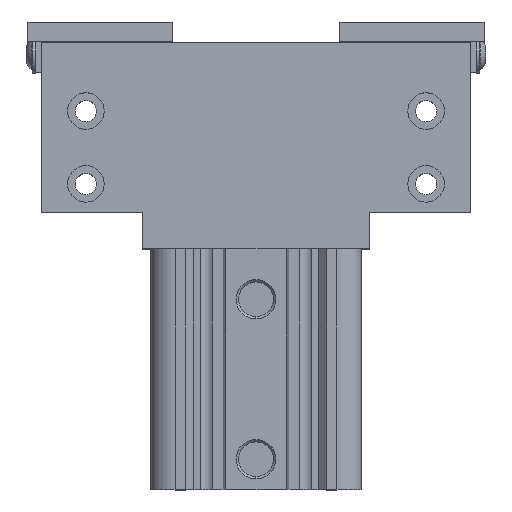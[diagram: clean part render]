
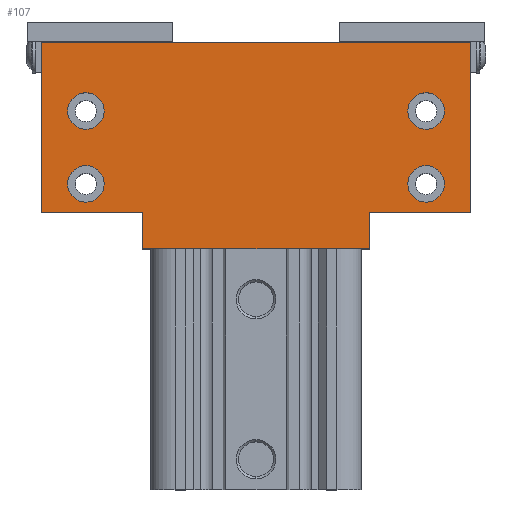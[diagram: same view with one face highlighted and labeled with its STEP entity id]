
A CAD part, top view. The second image highlights one B-rep face of the part: STEP entity #107.
In plain terms, the highlighted planar face has unit normal (0, 0, 1) as drawn and (0, 0, -1) by its records, which use the part's own axes.
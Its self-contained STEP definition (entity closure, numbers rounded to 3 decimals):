
#107 = ADVANCED_FACE ( 'NONE', ( #5859, #5864, #5858, #5863, #5861 ), #5093, .F. ) ;
#237 = CARTESIAN_POINT ( 'NONE',  ( -46.5, 35., -28. ) ) ;
#239 = CARTESIAN_POINT ( 'NONE',  ( -46.5, 17., -28. ) ) ;
#518 = CARTESIAN_POINT ( 'NONE',  ( 53., 0., -28. ) ) ;
#521 = DIRECTION ( 'NONE',  ( -1., 0., 0. ) ) ;
#531 = CARTESIAN_POINT ( 'NONE',  ( 53., 42., -28. ) ) ;
#536 = DIRECTION ( 'NONE',  ( -1., 0., 0. ) ) ;
#544 = CARTESIAN_POINT ( 'NONE',  ( 53., 42., -28. ) ) ;
#545 = DIRECTION ( 'NONE',  ( 0., -1., 0. ) ) ;
#1754 = EDGE_CURVE ( 'NONE', #2589, #2590, #9280, .T. ) ;
#1757 = EDGE_CURVE ( 'NONE', #2598, #2596, #9285, .T. ) ;
#1761 = EDGE_CURVE ( 'NONE', #2597, #7854, #9291, .T. ) ;
#1765 = EDGE_CURVE ( 'NONE', #2594, #7853, #9297, .T. ) ;
#2066 = EDGE_LOOP ( 'NONE', ( #3077, #3076 ) ) ;
#2068 = EDGE_LOOP ( 'NONE', ( #3085, #3082 ) ) ;
#2069 = EDGE_LOOP ( 'NONE', ( #3074, #3072 ) ) ;
#2070 = EDGE_LOOP ( 'NONE', ( #3081, #3079 ) ) ;
#2075 = EDGE_LOOP ( 'NONE', ( #3070, #3068, #3067, #3065, #3063, #3061, #3059, #3058 ) ) ;
#2179 = VERTEX_POINT ( 'NONE', #4413 ) ;
#2183 = VERTEX_POINT ( 'NONE', #4417 ) ;
#2184 = VERTEX_POINT ( 'NONE', #4418 ) ;
#2185 = VERTEX_POINT ( 'NONE', #4419 ) ;
#2187 = VERTEX_POINT ( 'NONE', #4421 ) ;
#2189 = VERTEX_POINT ( 'NONE', #4423 ) ;
#2191 = VERTEX_POINT ( 'NONE', #4425 ) ;
#2199 = VERTEX_POINT ( 'NONE', #4433 ) ;
#2589 = VERTEX_POINT ( 'NONE', #4822 ) ;
#2590 = VERTEX_POINT ( 'NONE', #4823 ) ;
#2594 = VERTEX_POINT ( 'NONE', #4827 ) ;
#2596 = VERTEX_POINT ( 'NONE', #4829 ) ;
#2597 = VERTEX_POINT ( 'NONE', #4830 ) ;
#2598 = VERTEX_POINT ( 'NONE', #4831 ) ;
#3058 = ORIENTED_EDGE ( 'NONE', *, *, #8272, .T. ) ;
#3059 = ORIENTED_EDGE ( 'NONE', *, *, #8285, .F. ) ;
#3061 = ORIENTED_EDGE ( 'NONE', *, *, #8284, .T. ) ;
#3063 = ORIENTED_EDGE ( 'NONE', *, *, #8283, .F. ) ;
#3065 = ORIENTED_EDGE ( 'NONE', *, *, #8282, .F. ) ;
#3067 = ORIENTED_EDGE ( 'NONE', *, *, #8267, .F. ) ;
#3068 = ORIENTED_EDGE ( 'NONE', *, *, #8281, .F. ) ;
#3070 = ORIENTED_EDGE ( 'NONE', *, *, #8262, .T. ) ;
#3072 = ORIENTED_EDGE ( 'NONE', *, *, #1765, .F. ) ;
#3074 = ORIENTED_EDGE ( 'NONE', *, *, #8280, .F. ) ;
#3076 = ORIENTED_EDGE ( 'NONE', *, *, #1761, .F. ) ;
#3077 = ORIENTED_EDGE ( 'NONE', *, *, #8279, .F. ) ;
#3079 = ORIENTED_EDGE ( 'NONE', *, *, #1757, .F. ) ;
#3081 = ORIENTED_EDGE ( 'NONE', *, *, #8278, .F. ) ;
#3082 = ORIENTED_EDGE ( 'NONE', *, *, #1754, .F. ) ;
#3085 = ORIENTED_EDGE ( 'NONE', *, *, #8277, .F. ) ;
#3878 = AXIS2_PLACEMENT_3D ( 'NONE', #5089, #5088, #5096 ) ;
#3927 = AXIS2_PLACEMENT_3D ( 'NONE', #5447, #5448, #5449 ) ;
#3929 = AXIS2_PLACEMENT_3D ( 'NONE', #5455, #5456, #5457 ) ;
#3931 = AXIS2_PLACEMENT_3D ( 'NONE', #5465, #5466, #5467 ) ;
#3933 = AXIS2_PLACEMENT_3D ( 'NONE', #5475, #5476, #5477 ) ;
#4031 = AXIS2_PLACEMENT_3D ( 'NONE', #8663, #8664, #8665 ) ;
#4032 = AXIS2_PLACEMENT_3D ( 'NONE', #8667, #8668, #8669 ) ;
#4033 = AXIS2_PLACEMENT_3D ( 'NONE', #8671, #8672, #8673 ) ;
#4034 = AXIS2_PLACEMENT_3D ( 'NONE', #8675, #8676, #8677 ) ;
#4413 = CARTESIAN_POINT ( 'NONE',  ( 53., 0., -28. ) ) ;
#4417 = CARTESIAN_POINT ( 'NONE',  ( -28., 42., -28. ) ) ;
#4418 = CARTESIAN_POINT ( 'NONE',  ( -53., 0., -28. ) ) ;
#4419 = CARTESIAN_POINT ( 'NONE',  ( 28., 51., -28. ) ) ;
#4421 = CARTESIAN_POINT ( 'NONE',  ( 53., 42., -28. ) ) ;
#4423 = CARTESIAN_POINT ( 'NONE',  ( -53., 42., -28. ) ) ;
#4425 = CARTESIAN_POINT ( 'NONE',  ( -28., 51., -28. ) ) ;
#4433 = CARTESIAN_POINT ( 'NONE',  ( 28., 42., -28. ) ) ;
#4822 = CARTESIAN_POINT ( 'NONE',  ( 46.5, 17., -28. ) ) ;
#4823 = CARTESIAN_POINT ( 'NONE',  ( 37.5, 17., -28. ) ) ;
#4827 = CARTESIAN_POINT ( 'NONE',  ( -37.5, 35., -28. ) ) ;
#4829 = CARTESIAN_POINT ( 'NONE',  ( 37.5, 35., -28. ) ) ;
#4830 = CARTESIAN_POINT ( 'NONE',  ( -37.5, 17., -28. ) ) ;
#4831 = CARTESIAN_POINT ( 'NONE',  ( 46.5, 35., -28. ) ) ;
#5088 = DIRECTION ( 'NONE',  ( 0., 0., 1. ) ) ;
#5089 = CARTESIAN_POINT ( 'NONE',  ( 53., 42., -28. ) ) ;
#5093 = PLANE ( 'NONE',  #3878 ) ;
#5096 = DIRECTION ( 'NONE',  ( 1., 0., 0. ) ) ;
#5447 = CARTESIAN_POINT ( 'NONE',  ( 42., 17., -28. ) ) ;
#5448 = DIRECTION ( 'NONE',  ( 0., 0., -1. ) ) ;
#5449 = DIRECTION ( 'NONE',  ( -1., 0., 0. ) ) ;
#5455 = CARTESIAN_POINT ( 'NONE',  ( 42., 35., -28. ) ) ;
#5456 = DIRECTION ( 'NONE',  ( 0., 0., -1. ) ) ;
#5457 = DIRECTION ( 'NONE',  ( -1., 0., 0. ) ) ;
#5465 = CARTESIAN_POINT ( 'NONE',  ( -42., 17., -28. ) ) ;
#5466 = DIRECTION ( 'NONE',  ( 0., 0., -1. ) ) ;
#5467 = DIRECTION ( 'NONE',  ( -1., 0., 0. ) ) ;
#5475 = CARTESIAN_POINT ( 'NONE',  ( -42., 35., -28. ) ) ;
#5476 = DIRECTION ( 'NONE',  ( 0., 0., -1. ) ) ;
#5477 = DIRECTION ( 'NONE',  ( -1., 0., 0. ) ) ;
#5858 = FACE_BOUND ( 'NONE', #2066, .T. ) ;
#5859 = FACE_BOUND ( 'NONE', #2068, .T. ) ;
#5861 = FACE_OUTER_BOUND ( 'NONE', #2075, .T. ) ;
#5863 = FACE_BOUND ( 'NONE', #2069, .T. ) ;
#5864 = FACE_BOUND ( 'NONE', #2070, .T. ) ;
#7853 = VERTEX_POINT ( 'NONE', #237 ) ;
#7854 = VERTEX_POINT ( 'NONE', #239 ) ;
#8262 = EDGE_CURVE ( 'NONE', #2179, #2184, #9675, .T. ) ;
#8267 = EDGE_CURVE ( 'NONE', #2183, #2189, #9679, .T. ) ;
#8272 = EDGE_CURVE ( 'NONE', #2187, #2179, #9694, .T. ) ;
#8277 = EDGE_CURVE ( 'NONE', #2590, #2589, #9698, .T. ) ;
#8278 = EDGE_CURVE ( 'NONE', #2596, #2598, #9706, .T. ) ;
#8279 = EDGE_CURVE ( 'NONE', #7854, #2597, #9707, .T. ) ;
#8280 = EDGE_CURVE ( 'NONE', #7853, #2594, #9708, .T. ) ;
#8281 = EDGE_CURVE ( 'NONE', #2189, #2184, #9709, .T. ) ;
#8282 = EDGE_CURVE ( 'NONE', #2191, #2183, #9710, .T. ) ;
#8283 = EDGE_CURVE ( 'NONE', #2185, #2191, #9712, .T. ) ;
#8284 = EDGE_CURVE ( 'NONE', #2185, #2199, #9704, .T. ) ;
#8285 = EDGE_CURVE ( 'NONE', #2187, #2199, #9716, .T. ) ;
#8663 = CARTESIAN_POINT ( 'NONE',  ( 42., 17., -28. ) ) ;
#8664 = DIRECTION ( 'NONE',  ( 0., 0., -1. ) ) ;
#8665 = DIRECTION ( 'NONE',  ( -1., 0., 0. ) ) ;
#8666 = CARTESIAN_POINT ( 'NONE',  ( -53., 42., -28. ) ) ;
#8667 = CARTESIAN_POINT ( 'NONE',  ( 42., 35., -28. ) ) ;
#8668 = DIRECTION ( 'NONE',  ( 0., 0., -1. ) ) ;
#8669 = DIRECTION ( 'NONE',  ( -1., 0., 0. ) ) ;
#8670 = DIRECTION ( 'NONE',  ( 0., -1., 0. ) ) ;
#8671 = CARTESIAN_POINT ( 'NONE',  ( -42., 17., -28. ) ) ;
#8672 = DIRECTION ( 'NONE',  ( 0., 0., -1. ) ) ;
#8673 = DIRECTION ( 'NONE',  ( -1., 0., 0. ) ) ;
#8674 = CARTESIAN_POINT ( 'NONE',  ( 28., 51., -28. ) ) ;
#8675 = CARTESIAN_POINT ( 'NONE',  ( -42., 35., -28. ) ) ;
#8676 = DIRECTION ( 'NONE',  ( 0., 0., -1. ) ) ;
#8677 = DIRECTION ( 'NONE',  ( -1., 0., 0. ) ) ;
#8678 = CARTESIAN_POINT ( 'NONE',  ( -28., 51., -28. ) ) ;
#8679 = DIRECTION ( 'NONE',  ( 0., -1., 0. ) ) ;
#8680 = CARTESIAN_POINT ( 'NONE',  ( -28., 51., -28. ) ) ;
#8681 = DIRECTION ( 'NONE',  ( -1., 0., 0. ) ) ;
#8682 = DIRECTION ( 'NONE',  ( 0., -1., 0. ) ) ;
#8683 = CARTESIAN_POINT ( 'NONE',  ( 53., 42., -28. ) ) ;
#8684 = DIRECTION ( 'NONE',  ( -1., 0., 0. ) ) ;
#9280 = CIRCLE ( 'NONE', #3927, 4.5 ) ;
#9285 = CIRCLE ( 'NONE', #3929, 4.5 ) ;
#9291 = CIRCLE ( 'NONE', #3931, 4.5 ) ;
#9297 = CIRCLE ( 'NONE', #3933, 4.5 ) ;
#9675 = LINE ( 'NONE', #518, #9680 ) ;
#9679 = LINE ( 'NONE', #531, #9687 ) ;
#9680 = VECTOR ( 'NONE', #521, 1000. ) ;
#9687 = VECTOR ( 'NONE', #536, 1000. ) ;
#9694 = LINE ( 'NONE', #544, #9697 ) ;
#9697 = VECTOR ( 'NONE', #545, 1000. ) ;
#9698 = CIRCLE ( 'NONE', #4031, 4.5 ) ;
#9704 = LINE ( 'NONE', #8674, #9717 ) ;
#9706 = CIRCLE ( 'NONE', #4032, 4.5 ) ;
#9707 = CIRCLE ( 'NONE', #4033, 4.5 ) ;
#9708 = CIRCLE ( 'NONE', #4034, 4.5 ) ;
#9709 = LINE ( 'NONE', #8666, #9711 ) ;
#9710 = LINE ( 'NONE', #8678, #9713 ) ;
#9711 = VECTOR ( 'NONE', #8670, 1000. ) ;
#9712 = LINE ( 'NONE', #8680, #9715 ) ;
#9713 = VECTOR ( 'NONE', #8679, 1000. ) ;
#9715 = VECTOR ( 'NONE', #8681, 1000. ) ;
#9716 = LINE ( 'NONE', #8683, #9719 ) ;
#9717 = VECTOR ( 'NONE', #8682, 1000. ) ;
#9719 = VECTOR ( 'NONE', #8684, 1000. ) ;
